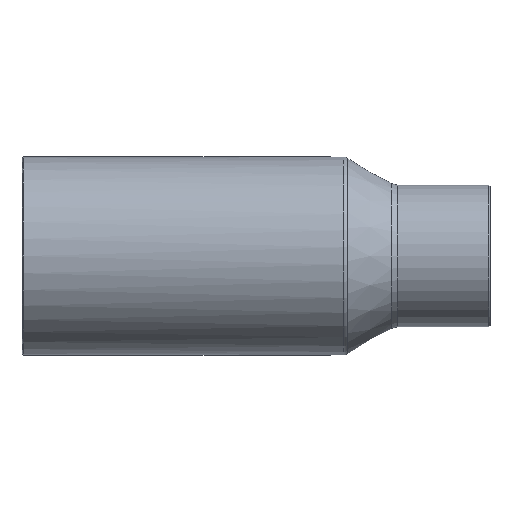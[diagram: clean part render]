
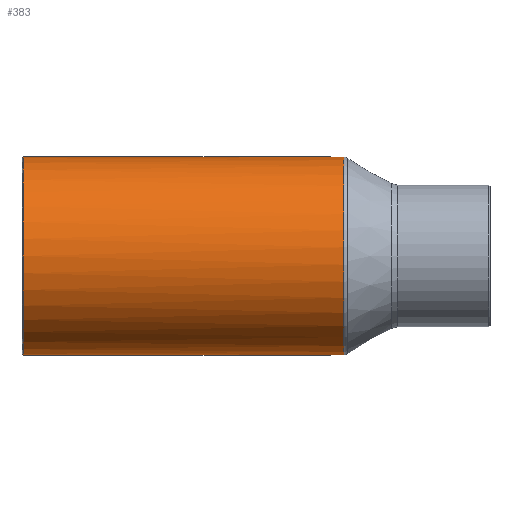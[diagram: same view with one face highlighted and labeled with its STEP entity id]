
A CAD part, front view. The second image highlights one B-rep face of the part: STEP entity #383.
In plain terms, the highlighted cylindrical face has radius 16.25 mm (diameter 32.5 mm), a full revolution.
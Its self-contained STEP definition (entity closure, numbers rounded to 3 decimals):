
#121=CARTESIAN_POINT('',(0.,0.0,-16.25));
#122=VERTEX_POINT('',#121);
#123=CARTESIAN_POINT('',(0.,0.0,16.25));
#124=VERTEX_POINT('',#123);
#309=CARTESIAN_POINT('',(-36.,16.25,0.));
#310=VERTEX_POINT('',#309);
#311=CARTESIAN_POINT('',(-36.,0.0,0.0));
#312=DIRECTION('',(-1.0,0.0,0.0));
#313=DIRECTION('',(0.0,-1.0,0.0));
#314=AXIS2_PLACEMENT_3D('',#311,#312,#313);
#315=CIRCLE('',#314,16.25);
#316=EDGE_CURVE('',#310,#310,#315,.T.);
#341=CARTESIAN_POINT('',(2.1,0.0,0.0));
#342=DIRECTION('',(1.0,0.0,0.0));
#343=DIRECTION('',(0.0,1.0,0.0));
#344=AXIS2_PLACEMENT_3D('',#341,#342,#343);
#345=CYLINDRICAL_SURFACE('',#344,16.25);
#346=CARTESIAN_POINT('',(16.473,13.219,9.451));
#347=VERTEX_POINT('',#346);
#348=CARTESIAN_POINT('',(16.473,13.219,-9.451));
#349=VERTEX_POINT('',#348);
#350=CARTESIAN_POINT('',(16.473,0.0,0.0));
#351=DIRECTION('',(1.0,0.0,0.0));
#352=DIRECTION('',(0.0,-1.0,0.0));
#353=AXIS2_PLACEMENT_3D('',#350,#351,#352);
#354=CIRCLE('',#353,16.25);
#355=EDGE_CURVE('',#347,#349,#354,.T.);
#356=ORIENTED_EDGE('',*,*,#355,.F.);
#357=CARTESIAN_POINT('',(0.0,0.0,0.0));
#358=DIRECTION('',(-0.626,0.78,0.));
#359=DIRECTION('',(0.78,0.626,0.0));
#360=AXIS2_PLACEMENT_3D('',#357,#358,#359);
#361=ELLIPSE('',#360,25.964,16.25);
#362=EDGE_CURVE('',#124,#347,#361,.T.);
#363=ORIENTED_EDGE('',*,*,#362,.F.);
#364=CARTESIAN_POINT('',(0.0,0.0,0.0));
#365=DIRECTION('',(0.626,0.78,0.));
#366=DIRECTION('',(-0.78,0.626,0.0));
#367=AXIS2_PLACEMENT_3D('',#364,#365,#366);
#368=ELLIPSE('',#367,25.964,16.25);
#369=EDGE_CURVE('',#122,#124,#368,.T.);
#370=ORIENTED_EDGE('',*,*,#369,.F.);
#371=CARTESIAN_POINT('',(0.0,0.0,0.0));
#372=DIRECTION('',(-0.626,0.78,0.));
#373=DIRECTION('',(0.78,0.626,0.0));
#374=AXIS2_PLACEMENT_3D('',#371,#372,#373);
#375=ELLIPSE('',#374,25.964,16.25);
#376=EDGE_CURVE('',#349,#122,#375,.T.);
#377=ORIENTED_EDGE('',*,*,#376,.F.);
#378=EDGE_LOOP('',(#356,#363,#370,#377));
#379=FACE_OUTER_BOUND('',#378,.T.);
#380=ORIENTED_EDGE('',*,*,#316,.F.);
#381=EDGE_LOOP('',(#380));
#382=FACE_BOUND('',#381,.T.);
#383=ADVANCED_FACE('',(#379,#382),#345,.T.);
